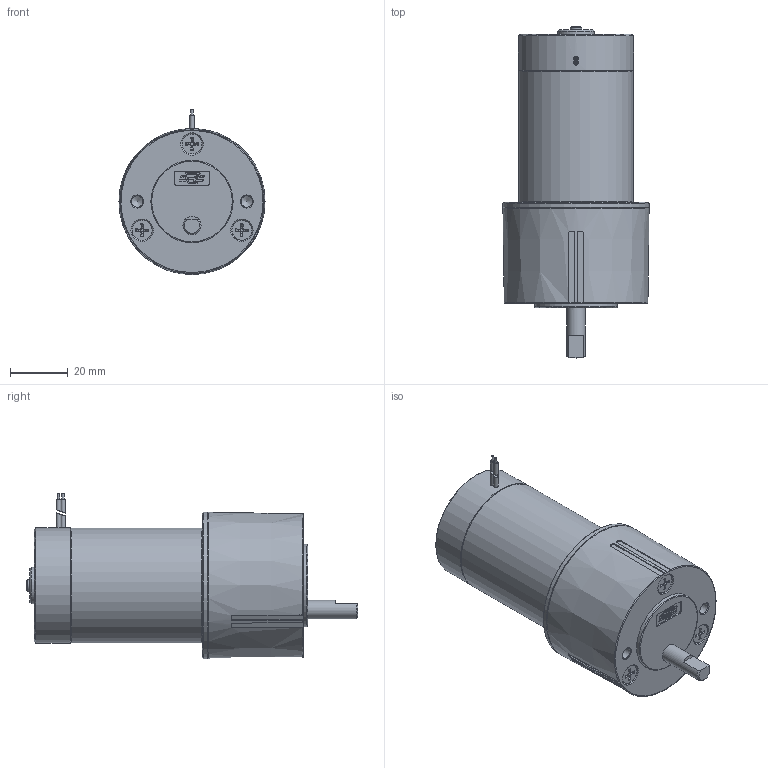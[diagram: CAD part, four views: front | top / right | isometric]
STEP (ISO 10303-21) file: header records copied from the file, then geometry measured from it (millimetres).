
FILE_DESCRIPTION((''),'2;1');
FILE_NAME('Z:\4_DC\새 폴더\RS4 SERIES\RS44ㅁㅁLㅁ.stp','2015-03-25T17:14:30',('kdhkdh'),(''),'Autodesk Inventor 2013','Autodesk Inventor 2013','');
FILE_SCHEMA(('AUTOMOTIVE_DESIGN { 1 0 10303 214 1 1 1 1 }'));
Length unit declared in the file: millimetre
Products named in the file (1): 부품2
Bounding box: 50.8 x 115.39 x 57.4 mm (x, y, z)
Volume: 144559.1 mm3; surface area: 18438.9 mm2
Topology: 2 solids, 4 shells, 365 faces, 946 edges, 615 vertices
Faces by surface type: plane 193, cylinder 105, cone 45, torus 22
Full cylindrical faces by diameter (mm): 0.76 x2, 1.56 x4, 2.8 x4, 3.5 x2, 3.7 x2, 3.962 x2, 4 x1, 6.34 x1, 6.9 x5, 7.8 x3, 12.7 x1, 28.575 x1, 40 x2, 50.8 x1
Entity records: 11520 total; most frequent: CARTESIAN_POINT 2953, ORIENTED_EDGE 1746, DIRECTION 1696, EDGE_CURVE 873, AXIS2_PLACEMENT_3D 633, VERTEX_POINT 596, EDGE_LOOP 453, VECTOR 430
